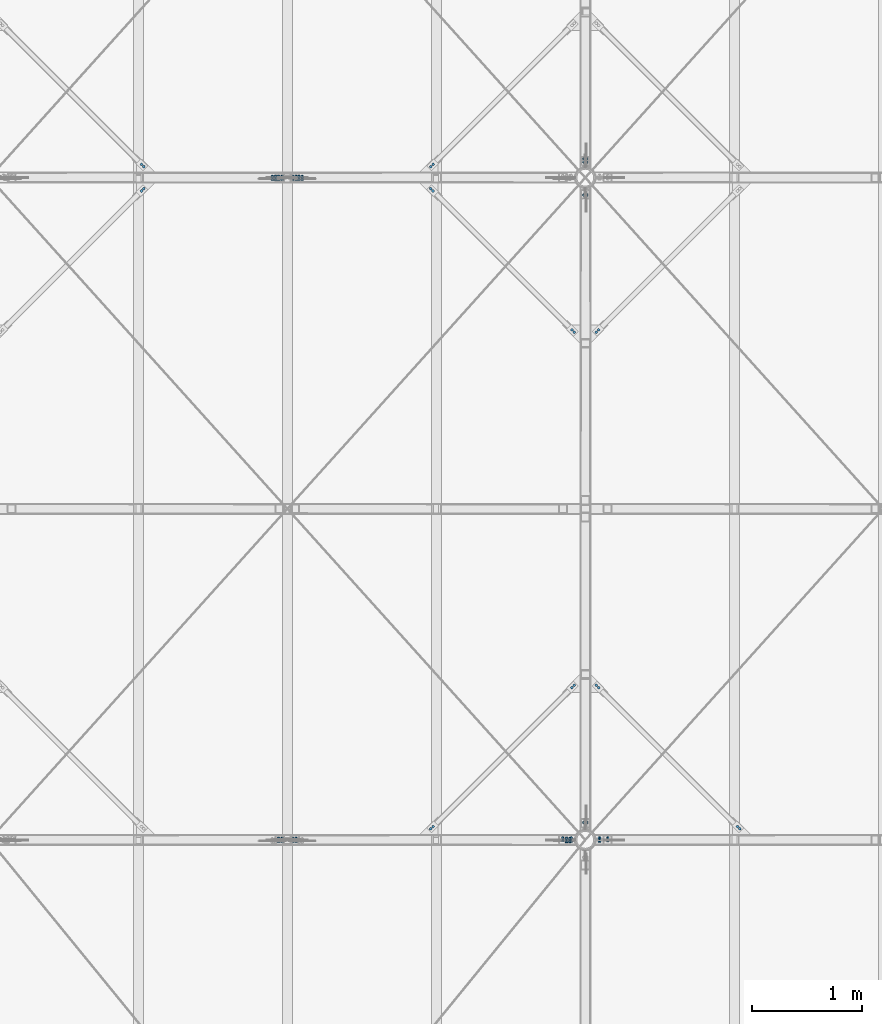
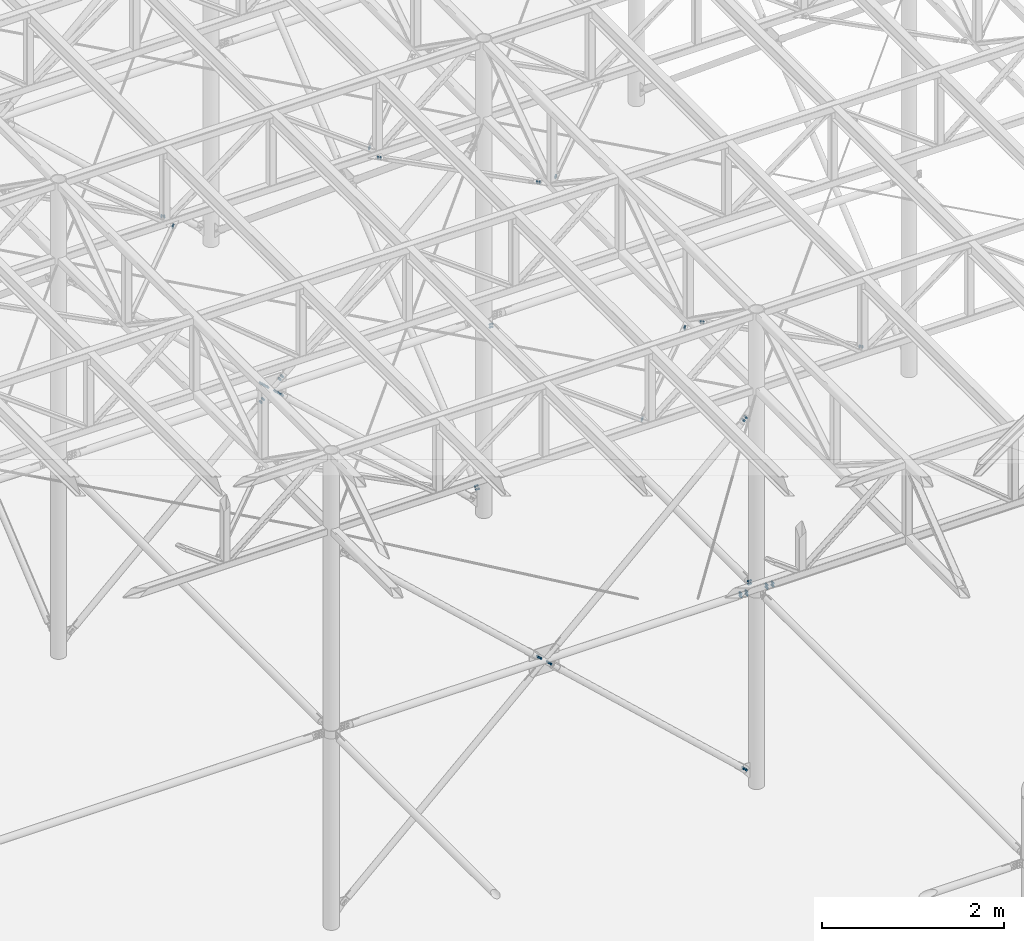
# One storey, part 118 of 132: 29 mechanical fasteners, 22 elements without a shape of their own.
"""IFC2X3 building model written with IfcOpenShell, lengths in millimetres."""

from ifc_helpers import new_model, si_unit, frame, origin_with_axes, origin_2d_with_axis, place, context, subcontext, project, spatial, polyline, circle, outline, extrude, source, transform, mapped, material, type_object, element, aggregate, save


model = new_model("IFC2X3")

# Units and contexts
model_context = context("Model", 3, precision=1e-05, world=origin_with_axes())
body_context = subcontext(model_context, "Body", "Model", "MODEL_VIEW")
ifc_project = project(units=[si_unit("LENGTHUNIT", "METRE", prefix="MILLI"), si_unit("AREAUNIT", "SQUARE_METRE"), si_unit("VOLUMEUNIT", "CUBIC_METRE"), si_unit("MASSUNIT", "GRAM", prefix="KILO"), si_unit("TIMEUNIT", "SECOND"), si_unit("PLANEANGLEUNIT", "RADIAN"), si_unit("SOLIDANGLEUNIT", "STERADIAN"), si_unit("THERMODYNAMICTEMPERATUREUNIT", "DEGREE_CELSIUS"), si_unit("LUMINOUSINTENSITYUNIT", "LUMEN")], contexts=[model_context])

# Site, building, storey
site_placement = place(None, origin_with_axes())
site = spatial("IfcSite", under=ifc_project, at=site_placement, Name="Budowa", CompositionType="ELEMENT")
building_placement = place(site_placement, origin_with_axes())
building = spatial("IfcBuilding", under=site, at=building_placement, Name="Undefined", CompositionType="ELEMENT")
storey_placement = place(building_placement, origin_with_axes())
storey = spatial("IfcBuildingStorey", under=building, at=storey_placement, Name="Undefined", CompositionType="ELEMENT", Elevation=0.0)

# Assembly, mechanical fastener
assembly_1_placement = place(storey_placement, origin_with_axes())
assembly_1 = element("IfcElementAssembly", 1, at=assembly_1_placement, inside=storey, Name="Steel Assembly", AssemblyPlace="NOTDEFINED", PredefinedType="RIGID_FRAME")
ifc_material = material(Name="Undefined")
discrete_accessory_type = type_object("IfcDiscreteAccessoryType", Name="Bolt assembly")
shared_shape_1 = source(origin_with_axes(), body_context, "Body", "SweptSolid", [
    extrude(circle(Radius=9.5, at=origin_2d_with_axis()), frame((0.0, -4.09999999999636, 0.0), z_axis=(0.0, 1.0, 0.0), x_axis=(1.0, 0.0, 0.0)), (0.0, 0.0, 1.0), 8.1),
    extrude(circle(Radius=9.5, at=origin_2d_with_axis()), frame((0.0, -11.9, 0.0), z_axis=(0.0, 1.0, 0.0), x_axis=(1.0, 0.0, 0.0)), (0.0, 0.0, 1.0), 8.0),
    extrude(outline(polyline([(13.85640646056, 0.0), (6.92820323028, 12.0000000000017), (-6.92820323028, 12.0000000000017), (-13.85640646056, 0.0), (-6.92820323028, -12.0000000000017), (6.92820323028, -12.0000000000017), (13.85640646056, 0.0)])), frame((0.0, -25.0, 0.0), z_axis=(0.0, 1.0, 0.0), x_axis=(1.0, 0.0, 0.0)), (0.0, 0.0, 1.0), 10.0),
    extrude(circle(Radius=8.0, at=origin_2d_with_axis()), frame((0.0, -15.0, 0.0), z_axis=(0.0, 1.0, 0.0), x_axis=(1.0, 0.0, 0.0)), (0.0, 0.0, 1.0), 40.0),
    extrude(circle(Radius=15.0, at=origin_2d_with_axis()), frame((0.0, -15.0, 0.0), z_axis=(0.0, 1.0, 0.0), x_axis=(1.0, 0.0, 0.0)), (0.0, 0.0, 1.0), 3.0),
    extrude(circle(Radius=15.0, at=origin_2d_with_axis()), frame((0.0, 4.0, 0.0), z_axis=(0.0, 1.0, 0.0), x_axis=(1.0, 0.0, 0.0)), (0.0, 0.0, 1.0), 3.0),
    extrude(outline(polyline([(13.85640646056, 0.0), (6.92820323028, 12.0000000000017), (-6.92820323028, 12.0000000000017), (-13.85640646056, 0.0), (-6.92820323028, -12.0000000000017), (6.92820323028, -12.0000000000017), (13.85640646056, 0.0)])), frame((0.0, 7.0, 0.0), z_axis=(0.0, 1.0, 0.0), x_axis=(1.0, 0.0, 0.0)), (0.0, 0.0, 1.0), 13.0),
])
mechanical_fastener_1_placement = place(assembly_1_placement, frame((12018.9139021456, 11997.999997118, 10018.0008231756), z_axis=(0.67855182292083, 0.0, -0.734552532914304), x_axis=(-0.734552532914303, 0.0, -0.67855182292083)))
mechanical_fastener_1 = element("IfcMechanicalFastener", 2, at=mechanical_fastener_1_placement, type_object=discrete_accessory_type, material=ifc_material, Name="Bolt assembly", NominalDiameter=16.0, NominalLength=40.0, context=body_context, shape_type="MappedRepresentation", body=[
    mapped(shared_shape_1, transform((0.0, 0.0, 0.0))),
    mapped(shared_shape_1, transform((40.0000000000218, 0.0, -1.81898940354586e-12))),
])
aggregate(assembly_1, [mechanical_fastener_1])

assembly_2_placement = place(storey_placement, origin_with_axes())
assembly_2 = element("IfcElementAssembly", 3, at=assembly_2_placement, inside=storey, Name="Steel Assembly", AssemblyPlace="NOTDEFINED", PredefinedType="RIGID_FRAME")
mechanical_fastener_2_placement = place(assembly_2_placement, frame((12231.0887636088, 11997.999997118, 10018.0008271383), z_axis=(0.678551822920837, 0.0, 0.734552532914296), x_axis=(0.734552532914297, 0.0, -0.678551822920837)))
mechanical_fastener_2 = element("IfcMechanicalFastener", 4, at=mechanical_fastener_2_placement, type_object=discrete_accessory_type, material=ifc_material, Name="Bolt assembly", NominalDiameter=16.0, NominalLength=40.0, context=body_context, shape_type="MappedRepresentation", body=[
    mapped(shared_shape_1, transform((0.0, 0.0, 0.0))),
    mapped(shared_shape_1, transform((40.0000000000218, 0.0, -1.81898940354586e-12))),
])
aggregate(assembly_2, [mechanical_fastener_2])

assembly_3_placement = place(storey_placement, origin_with_axes())
assembly_3 = element("IfcElementAssembly", 5, at=assembly_3_placement, inside=storey, Name="Steel Assembly", AssemblyPlace="NOTDEFINED", PredefinedType="RIGID_FRAME")
mechanical_fastener_3_placement = place(assembly_3_placement, frame((12018.913903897, 11997.9999968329, 10213.9999310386), z_axis=(-0.67855182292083, 0.0, -0.734552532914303), x_axis=(-0.734552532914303, 0.0, 0.67855182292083)))
mechanical_fastener_3 = element("IfcMechanicalFastener", 6, at=mechanical_fastener_3_placement, type_object=discrete_accessory_type, material=ifc_material, Name="Bolt assembly", NominalDiameter=16.0, NominalLength=40.0, context=body_context, shape_type="MappedRepresentation", body=[
    mapped(shared_shape_1, transform((0.0, 0.0, 0.0))),
    mapped(shared_shape_1, transform((40.0000000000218, 0.0, -1.81898940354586e-12))),
])
aggregate(assembly_3, [mechanical_fastener_3])

assembly_4_placement = place(storey_placement, origin_with_axes())
assembly_4 = element("IfcElementAssembly", 7, at=assembly_4_placement, inside=storey, Name="Steel Assembly", AssemblyPlace="NOTDEFINED", PredefinedType="RIGID_FRAME")
mechanical_fastener_4_placement = place(assembly_4_placement, frame((12231.0887653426, 11997.9999968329, 10213.9999302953), z_axis=(-0.678551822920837, 0.0, 0.734552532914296), x_axis=(0.734552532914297, 0.0, 0.678551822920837)))
mechanical_fastener_4 = element("IfcMechanicalFastener", 8, at=mechanical_fastener_4_placement, type_object=discrete_accessory_type, material=ifc_material, Name="Bolt assembly", NominalDiameter=16.0, NominalLength=40.0, context=body_context, shape_type="MappedRepresentation", body=[
    mapped(shared_shape_1, transform((0.0, 0.0, 0.0))),
    mapped(shared_shape_1, transform((40.0000000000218, 0.0, -1.81898940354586e-12))),
])
aggregate(assembly_4, [mechanical_fastener_4])

assembly_5_placement = place(storey_placement, origin_with_axes())
assembly_5 = element("IfcElementAssembly", 9, at=assembly_5_placement, inside=storey, Name="Steel Assembly", AssemblyPlace="NOTDEFINED", PredefinedType="RIGID_FRAME")
shared_shape_2 = source(origin_with_axes(), body_context, "Body", "SweptSolid", [
    extrude(circle(Radius=9.0, at=origin_2d_with_axis()), frame((0.0, 0.0999999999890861, 0.0), z_axis=(0.0, 1.0, 0.0), x_axis=(1.0, 0.0, 0.0)), (0.0, 0.0, 1.0), 8.0),
    extrude(circle(Radius=9.0, at=origin_2d_with_axis()), frame((0.0, 11.9000000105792, 0.0), z_axis=(0.0, 1.0, 0.0), x_axis=(1.0, 0.0, 0.0)), (0.0, 0.0, 1.0), 8.1),
    extrude(outline(polyline([(13.85640646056, 0.0), (6.92820323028, 12.0000000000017), (-6.92820323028, 12.0000000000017), (-13.85640646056, 0.0), (-6.92820323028, -12.0000000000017), (6.92820323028, -12.0000000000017), (13.85640646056, 0.0)])), frame((0.0, -13.0, 0.0), z_axis=(0.0, 1.0, 0.0), x_axis=(1.0, 0.0, 0.0)), (0.0, 0.0, 1.0), 10.0),
    extrude(circle(Radius=8.0, at=origin_2d_with_axis()), frame((0.0, -2.99999999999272, 0.0), z_axis=(0.0, 1.0, 0.0), x_axis=(1.0, 0.0, 0.0)), (0.0, 0.0, 1.0), 45.0),
    extrude(circle(Radius=15.0, at=origin_2d_with_axis()), frame((0.0, -2.99999999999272, 0.0), z_axis=(0.0, 1.0, 0.0), x_axis=(1.0, 0.0, 0.0)), (0.0, 0.0, 1.0), 3.0),
    extrude(circle(Radius=15.0, at=origin_2d_with_axis()), frame((0.0, 20.0000000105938, 0.0), z_axis=(0.0, 1.0, 0.0), x_axis=(1.0, 0.0, 0.0)), (0.0, 0.0, 1.0), 3.0),
    extrude(outline(polyline([(13.85640646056, 0.0), (6.92820323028, 12.0000000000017), (-6.92820323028, 12.0000000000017), (-13.85640646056, 0.0), (-6.92820323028, -12.0000000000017), (6.92820323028, -12.0000000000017), (13.85640646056, 0.0)])), frame((0.0, 23.0000000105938, 0.0), z_axis=(0.0, 1.0, 0.0), x_axis=(1.0, 0.0, 0.0)), (0.0, 0.0, 1.0), 13.0),
])
mechanical_fastener_5_placement = place(assembly_5_placement, frame((14953.1367126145, 5990.00000004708, 10096.0003779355), z_axis=(-1.0, 0.0, 0.0), x_axis=(0.0, 0.0, 1.0)))
mechanical_fastener_5 = element("IfcMechanicalFastener", 10, at=mechanical_fastener_5_placement, type_object=discrete_accessory_type, material=ifc_material, Name="Bolt assembly", NominalDiameter=16.0, NominalLength=45.0, context=body_context, shape_type="MappedRepresentation", body=[
    mapped(shared_shape_2, transform((0.0, 0.0, 0.0))),
    mapped(shared_shape_2, transform((40.0000000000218, 0.0, -1.81898940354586e-12))),
])

assembly_6_placement = place(storey_placement, origin_with_axes())
assembly_6 = element("IfcElementAssembly", 11, at=assembly_6_placement, inside=storey, Name="Steel Assembly", AssemblyPlace="NOTDEFINED", PredefinedType="RIGID_FRAME")
shared_shape_3 = source(origin_with_axes(), body_context, "Body", "SweptSolid", [
    extrude(circle(Radius=9.0, at=origin_2d_with_axis()), frame((0.0, -4.09999999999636, 0.0), z_axis=(0.0, 1.0, 0.0), x_axis=(1.0, 0.0, 0.0)), (0.0, 0.0, 1.0), 8.1),
    extrude(circle(Radius=9.0, at=origin_2d_with_axis()), frame((0.0, -11.9, 0.0), z_axis=(0.0, 1.0, 0.0), x_axis=(1.0, 0.0, 0.0)), (0.0, 0.0, 1.0), 8.0),
    extrude(outline(polyline([(13.85640646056, 0.0), (6.92820323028, 12.0000000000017), (-6.92820323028, 12.0000000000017), (-13.85640646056, 0.0), (-6.92820323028, -12.0000000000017), (6.92820323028, -12.0000000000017), (13.85640646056, 0.0)])), frame((0.0, -25.0, 0.0), z_axis=(0.0, 1.0, 0.0), x_axis=(1.0, 0.0, 0.0)), (0.0, 0.0, 1.0), 10.0),
    extrude(circle(Radius=8.0, at=origin_2d_with_axis()), frame((0.0, -15.0, 0.0), z_axis=(0.0, 1.0, 0.0), x_axis=(1.0, 0.0, 0.0)), (0.0, 0.0, 1.0), 40.0),
    extrude(circle(Radius=15.0, at=origin_2d_with_axis()), frame((0.0, -15.0, 0.0), z_axis=(0.0, 1.0, 0.0), x_axis=(1.0, 0.0, 0.0)), (0.0, 0.0, 1.0), 3.0),
    extrude(circle(Radius=15.0, at=origin_2d_with_axis()), frame((0.0, 4.0, 0.0), z_axis=(0.0, 1.0, 0.0), x_axis=(1.0, 0.0, 0.0)), (0.0, 0.0, 1.0), 3.0),
    extrude(outline(polyline([(13.85640646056, 0.0), (6.92820323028, 12.0000000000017), (-6.92820323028, 12.0000000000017), (-13.85640646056, 0.0), (-6.92820323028, -12.0000000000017), (6.92820323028, -12.0000000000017), (13.85640646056, 0.0)])), frame((0.0, 7.0, 0.0), z_axis=(0.0, 1.0, 0.0), x_axis=(1.0, 0.0, 0.0)), (0.0, 0.0, 1.0), 13.0),
])
mechanical_fastener_6_placement = place(assembly_6_placement, frame((14824.9999999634, 12140.1779391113, 7739.23081470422), z_axis=(0.0, -0.639165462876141, 0.769069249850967), x_axis=(0.0, 0.769069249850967, 0.639165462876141)))
mechanical_fastener_6 = element("IfcMechanicalFastener", 12, at=mechanical_fastener_6_placement, type_object=discrete_accessory_type, material=ifc_material, Name="Bolt assembly", NominalDiameter=16.0, NominalLength=40.0, context=body_context, shape_type="MappedRepresentation", body=[
    mapped(shared_shape_3, transform((0.0, 0.0, 0.0))),
    mapped(shared_shape_3, transform((40.0000000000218, 0.0, -1.81898940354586e-12))),
])
aggregate(assembly_6, [mechanical_fastener_6])

# Assembly, mechanical fasteners
assembly_7_placement = place(storey_placement, origin_with_axes())
assembly_7 = element("IfcElementAssembly", 13, at=assembly_7_placement, inside=storey, Name="Steel Assembly", AssemblyPlace="NOTDEFINED", PredefinedType="RIGID_FRAME")
mechanical_fastener_7_placement = place(assembly_7_placement, frame((14824.9999972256, 11842.0920947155, 10116.0003779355), z_axis=(0.0, 0.0, -1.0), x_axis=(0.0, -1.0, 0.0)))
mechanical_fastener_7 = element("IfcMechanicalFastener", 14, at=mechanical_fastener_7_placement, type_object=discrete_accessory_type, material=ifc_material, Name="Bolt assembly", NominalDiameter=16.0, NominalLength=40.0, context=body_context, shape_type="MappedRepresentation", body=[
    mapped(shared_shape_3, transform((0.0, 0.0, -20.0))),
    mapped(shared_shape_3, transform((0.0, 0.0, 20.0))),
])
mechanical_fastener_8_placement = place(assembly_7_placement, frame((14824.9999969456, 6157.90790542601, 10116.0003779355), z_axis=(0.0, 0.0, 1.0), x_axis=(0.0, 1.0, 0.0)))
mechanical_fastener_8 = element("IfcMechanicalFastener", 15, at=mechanical_fastener_8_placement, type_object=discrete_accessory_type, material=ifc_material, Name="Bolt assembly", NominalDiameter=16.0, NominalLength=40.0, context=body_context, shape_type="MappedRepresentation", body=[
    mapped(shared_shape_3, transform((0.0, 0.0, -20.0))),
    mapped(shared_shape_3, transform((0.0, 0.0, 20.0))),
])
aggregate(assembly_7, [mechanical_fastener_7, mechanical_fastener_8])

# Assembly, mechanical fastener
assembly_8_placement = place(storey_placement, origin_with_axes())
assembly_8 = element("IfcElementAssembly", 16, at=assembly_8_placement, inside=storey, Name="Steel Assembly", AssemblyPlace="NOTDEFINED", PredefinedType="RIGID_FRAME")
mechanical_fastener_9_placement = place(assembly_8_placement, frame((12174.3756759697, 11999.9999977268, 10070.3902305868), z_axis=(0.678551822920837, 0.0, 0.734552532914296), x_axis=(0.734552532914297, 0.0, -0.678551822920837)))
mechanical_fastener_9 = element("IfcMechanicalFastener", 17, at=mechanical_fastener_9_placement, type_object=discrete_accessory_type, material=ifc_material, Name="Bolt assembly", NominalDiameter=16.0, NominalLength=40.0, context=body_context, shape_type="MappedRepresentation", body=[
    mapped(shared_shape_3, transform((0.0, 0.0, 0.0))),
    mapped(shared_shape_3, transform((40.0000000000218, 0.0, -1.81898940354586e-12))),
])
aggregate(assembly_8, [mechanical_fastener_9])

assembly_9_placement = place(storey_placement, origin_with_axes())
assembly_9 = element("IfcElementAssembly", 18, at=assembly_9_placement, inside=storey, Name="Steel Assembly", AssemblyPlace="NOTDEFINED", PredefinedType="RIGID_FRAME")
mechanical_fastener_10_placement = place(assembly_9_placement, frame((12075.6269936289, 11999.9999975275, 10161.6105256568), z_axis=(-0.67855182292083, 0.0, -0.734552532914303), x_axis=(-0.734552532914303, 0.0, 0.67855182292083)))
mechanical_fastener_10 = element("IfcMechanicalFastener", 19, at=mechanical_fastener_10_placement, type_object=discrete_accessory_type, material=ifc_material, Name="Bolt assembly", NominalDiameter=16.0, NominalLength=40.0, context=body_context, shape_type="MappedRepresentation", body=[
    mapped(shared_shape_3, transform((0.0, 0.0, 0.0))),
    mapped(shared_shape_3, transform((40.0000000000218, 0.0, -1.81898940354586e-12))),
])
aggregate(assembly_9, [mechanical_fastener_10])

assembly_10_placement = place(storey_placement, origin_with_axes())
assembly_10 = element("IfcElementAssembly", 20, at=assembly_10_placement, inside=storey, Name="Steel Assembly", AssemblyPlace="NOTDEFINED", PredefinedType="RIGID_FRAME")
mechanical_fastener_11_placement = place(assembly_10_placement, frame((14684.3261497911, 5999.99999734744, 7751.79299875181), z_axis=(-0.67855182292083, 0.0, -0.734552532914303), x_axis=(-0.734552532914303, 0.0, 0.67855182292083)))
mechanical_fastener_11 = element("IfcMechanicalFastener", 21, at=mechanical_fastener_11_placement, type_object=discrete_accessory_type, material=ifc_material, Name="Bolt assembly", NominalDiameter=16.0, NominalLength=40.0, context=body_context, shape_type="MappedRepresentation", body=[
    mapped(shared_shape_3, transform((0.0, 0.0, 0.0))),
    mapped(shared_shape_3, transform((40.0000000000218, 0.0, -1.81898940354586e-12))),
])

assembly_11_placement = place(storey_placement, origin_with_axes())
assembly_11 = element("IfcElementAssembly", 22, at=assembly_11_placement, inside=storey, Name="Steel Assembly", AssemblyPlace="NOTDEFINED", PredefinedType="RIGID_FRAME")
mechanical_fastener_12_placement = place(assembly_11_placement, frame((14684.3261492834, 5999.99999762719, 12480.2077566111), z_axis=(0.67855182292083, 0.0, -0.734552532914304), x_axis=(-0.734552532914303, 0.0, -0.67855182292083)))
mechanical_fastener_12 = element("IfcMechanicalFastener", 23, at=mechanical_fastener_12_placement, type_object=discrete_accessory_type, material=ifc_material, Name="Bolt assembly", NominalDiameter=16.0, NominalLength=40.0, context=body_context, shape_type="MappedRepresentation", body=[
    mapped(shared_shape_3, transform((0.0, 0.0, 0.0))),
    mapped(shared_shape_3, transform((40.0000000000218, 0.0, -1.81898940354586e-12))),
])
aggregate(assembly_11, [mechanical_fastener_12])

# Mechanical fastener
mechanical_fastener_13_placement = place(assembly_10_placement, frame((12174.3756759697, 5999.99999772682, 10070.3902305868), z_axis=(0.678551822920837, 0.0, 0.734552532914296), x_axis=(0.734552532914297, 0.0, -0.678551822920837)))
mechanical_fastener_13 = element("IfcMechanicalFastener", 24, at=mechanical_fastener_13_placement, type_object=discrete_accessory_type, material=ifc_material, Name="Bolt assembly", NominalDiameter=16.0, NominalLength=40.0, context=body_context, shape_type="MappedRepresentation", body=[
    mapped(shared_shape_3, transform((0.0, 0.0, 0.0))),
    mapped(shared_shape_3, transform((40.0000000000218, 0.0, -1.81898940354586e-12))),
])

aggregate(assembly_10, [mechanical_fastener_11, mechanical_fastener_13])

# Assembly, mechanical fastener
assembly_12_placement = place(storey_placement, origin_with_axes())
assembly_12 = element("IfcElementAssembly", 25, at=assembly_12_placement, inside=storey, Name="Steel Assembly", AssemblyPlace="NOTDEFINED", PredefinedType="RIGID_FRAME")
mechanical_fastener_14_placement = place(assembly_12_placement, frame((12075.6269936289, 5999.99999752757, 10161.6105256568), z_axis=(-0.67855182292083, 0.0, -0.734552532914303), x_axis=(-0.734552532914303, 0.0, 0.67855182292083)))
mechanical_fastener_14 = element("IfcMechanicalFastener", 26, at=mechanical_fastener_14_placement, type_object=discrete_accessory_type, material=ifc_material, Name="Bolt assembly", NominalDiameter=16.0, NominalLength=40.0, context=body_context, shape_type="MappedRepresentation", body=[
    mapped(shared_shape_3, transform((0.0, 0.0, 0.0))),
    mapped(shared_shape_3, transform((40.0000000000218, 0.0, -1.81898940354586e-12))),
])
aggregate(assembly_12, [mechanical_fastener_14])

# Mechanical fastener
shared_shape_4 = source(origin_with_axes(), body_context, "Body", "SweptSolid", [
    extrude(circle(Radius=9.0, at=origin_2d_with_axis()), frame((0.0, 0.0999999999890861, 0.0), z_axis=(0.0, 1.0, 0.0), x_axis=(1.0, 0.0, 0.0)), (0.0, 0.0, 1.0), 8.0),
    extrude(circle(Radius=9.0, at=origin_2d_with_axis()), frame((0.0, 7.9000007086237, 0.0), z_axis=(0.0, 1.0, 0.0), x_axis=(1.0, 0.0, 0.0)), (0.0, 0.0, 1.0), 8.1),
    extrude(outline(polyline([(13.85640646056, 0.0), (6.92820323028, 12.0000000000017), (-6.92820323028, 12.0000000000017), (-13.85640646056, 0.0), (-6.92820323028, -12.0000000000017), (6.92820323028, -12.0000000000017), (13.85640646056, 0.0)])), frame((0.0, -13.0, 0.0), z_axis=(0.0, 1.0, 0.0), x_axis=(1.0, 0.0, 0.0)), (0.0, 0.0, 1.0), 10.0),
    extrude(circle(Radius=8.0, at=origin_2d_with_axis()), frame((0.0, -2.99999999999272, 0.0), z_axis=(0.0, 1.0, 0.0), x_axis=(1.0, 0.0, 0.0)), (0.0, 0.0, 1.0), 40.0),
    extrude(circle(Radius=15.0, at=origin_2d_with_axis()), frame((0.0, -2.99999999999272, 0.0), z_axis=(0.0, 1.0, 0.0), x_axis=(1.0, 0.0, 0.0)), (0.0, 0.0, 1.0), 3.0),
    extrude(circle(Radius=15.0, at=origin_2d_with_axis()), frame((0.0, 16.0000007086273, 0.0), z_axis=(0.0, 1.0, 0.0), x_axis=(1.0, 0.0, 0.0)), (0.0, 0.0, 1.0), 3.0),
    extrude(outline(polyline([(13.85640646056, 0.0), (6.92820323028, 12.0000000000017), (-6.92820323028, 12.0000000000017), (-13.85640646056, 0.0), (-6.92820323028, -12.0000000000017), (6.92820323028, -12.0000000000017), (13.85640646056, 0.0)])), frame((0.0, 19.0000007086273, 0.0), z_axis=(0.0, 1.0, 0.0), x_axis=(1.0, 0.0, 0.0)), (0.0, 0.0, 1.0), 13.0),
])
mechanical_fastener_15_placement = place(assembly_5_placement, frame((15028.1366941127, 5993.99999945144, 10096.0003779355), z_axis=(-1.0, 0.0, 0.0), x_axis=(0.0, 0.0, 1.0)))
mechanical_fastener_15 = element("IfcMechanicalFastener", 27, at=mechanical_fastener_15_placement, type_object=discrete_accessory_type, material=ifc_material, Name="Bolt assembly", NominalDiameter=16.0, NominalLength=40.0, context=body_context, shape_type="MappedRepresentation", body=[
    mapped(shared_shape_4, transform((0.0, 0.0, 0.0))),
    mapped(shared_shape_4, transform((40.0000000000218, 0.0, -1.81898940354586e-12))),
])

mechanical_fastener_16_placement = place(assembly_5_placement, frame((14621.863305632, 5993.99999945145, 10096.0003779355), z_axis=(-1.0, 0.0, 0.0), x_axis=(0.0, 0.0, 1.0)))
mechanical_fastener_16 = element("IfcMechanicalFastener", 28, at=mechanical_fastener_16_placement, type_object=discrete_accessory_type, material=ifc_material, Name="Bolt assembly", NominalDiameter=16.0, NominalLength=40.0, context=body_context, shape_type="MappedRepresentation", body=[
    mapped(shared_shape_4, transform((0.0, 0.0, 0.0))),
    mapped(shared_shape_4, transform((40.0000000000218, 0.0, -1.81898940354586e-12))),
])

aggregate(assembly_5, [mechanical_fastener_15, mechanical_fastener_16, mechanical_fastener_5])

# Assembly, mechanical fastener
assembly_13_placement = place(storey_placement, origin_with_axes())
assembly_13 = element("IfcElementAssembly", 29, at=assembly_13_placement, inside=storey, Name="Steel Assembly", AssemblyPlace="NOTDEFINED", PredefinedType="RIGID_FRAME")
shared_shape_5 = source(origin_with_axes(), body_context, "Body", "SweptSolid", [
    extrude(circle(Radius=9.0, at=origin_2d_with_axis()), frame((0.0, 11.9000000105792, 0.0), z_axis=(0.0, 1.0, 0.0), x_axis=(1.0, 0.0, 0.0)), (0.0, 0.0, 1.0), 8.1),
    extrude(circle(Radius=9.0, at=origin_2d_with_axis()), frame((0.0, 0.0999999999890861, 0.0), z_axis=(0.0, 1.0, 0.0), x_axis=(1.0, 0.0, 0.0)), (0.0, 0.0, 1.0), 8.0),
    extrude(outline(polyline([(13.85640646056, 0.0), (6.92820323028, 12.0000000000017), (-6.92820323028, 12.0000000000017), (-13.85640646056, 0.0), (-6.92820323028, -12.0000000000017), (6.92820323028, -12.0000000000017), (13.85640646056, 0.0)])), frame((0.0, -13.0, 0.0), z_axis=(0.0, 1.0, 0.0), x_axis=(1.0, 0.0, 0.0)), (0.0, 0.0, 1.0), 10.0),
    extrude(circle(Radius=8.0, at=origin_2d_with_axis()), frame((0.0, -2.99999999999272, 0.0), z_axis=(0.0, 1.0, 0.0), x_axis=(1.0, 0.0, 0.0)), (0.0, 0.0, 1.0), 45.0),
    extrude(circle(Radius=15.0, at=origin_2d_with_axis()), frame((0.0, -2.99999999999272, 0.0), z_axis=(0.0, 1.0, 0.0), x_axis=(1.0, 0.0, 0.0)), (0.0, 0.0, 1.0), 3.0),
    extrude(circle(Radius=15.0, at=origin_2d_with_axis()), frame((0.0, 20.0000000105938, 0.0), z_axis=(0.0, 1.0, 0.0), x_axis=(1.0, 0.0, 0.0)), (0.0, 0.0, 1.0), 3.0),
    extrude(outline(polyline([(13.85640646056, 0.0), (6.92820323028, 12.0000000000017), (-6.92820323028, 12.0000000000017), (-13.85640646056, 0.0), (-6.92820323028, -12.0000000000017), (6.92820323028, -12.0000000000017), (13.85640646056, 0.0)])), frame((0.0, 23.0000000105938, 0.0), z_axis=(0.0, 1.0, 0.0), x_axis=(1.0, 0.0, 0.0)), (0.0, 0.0, 1.0), 13.0),
])
mechanical_fastener_17_placement = place(assembly_13_placement, frame((14696.863305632, 5989.99999994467, 10096.0003779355), z_axis=(-1.0, 0.0, 0.0), x_axis=(0.0, 0.0, 1.0)))
mechanical_fastener_17 = element("IfcMechanicalFastener", 30, at=mechanical_fastener_17_placement, type_object=discrete_accessory_type, material=ifc_material, Name="Bolt assembly", NominalDiameter=16.0, NominalLength=45.0, context=body_context, shape_type="MappedRepresentation", body=[
    mapped(shared_shape_5, transform((0.0, 0.0, 0.0))),
    mapped(shared_shape_5, transform((40.0000000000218, 0.0, -1.81898940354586e-12))),
])
aggregate(assembly_13, [mechanical_fastener_17])

assembly_14_placement = place(storey_placement, origin_with_axes())
assembly_14 = element("IfcElementAssembly", 31, at=assembly_14_placement, inside=storey, Name="Steel Assembly", AssemblyPlace="NOTDEFINED", PredefinedType="RIGID_FRAME")
shared_shape_6 = source(origin_with_axes(), body_context, "Body", "SweptSolid", [
    extrude(circle(Radius=9.5, at=origin_2d_with_axis()), frame((0.0, -2.10099750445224, 0.0), z_axis=(0.0, 1.0, 0.0), x_axis=(1.0, 0.0, 0.0)), (0.0, 0.0, 1.0), 8.1),
    extrude(circle(Radius=9.5, at=origin_2d_with_axis()), frame((0.0, -11.9, 0.0), z_axis=(0.0, 1.0, 0.0), x_axis=(1.0, 0.0, 0.0)), (0.0, 0.0, 1.0), 8.0),
    extrude(outline(polyline([(13.85640646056, 0.0), (6.92820323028, 12.0000000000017), (-6.92820323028, 12.0000000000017), (-13.85640646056, 0.0), (-6.92820323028, -12.0000000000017), (6.92820323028, -12.0000000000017), (13.85640646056, 0.0)])), frame((0.0, -25.0, 0.0), z_axis=(0.0, 1.0, 0.0), x_axis=(1.0, 0.0, 0.0)), (0.0, 0.0, 1.0), 10.0),
    extrude(circle(Radius=8.0, at=origin_2d_with_axis()), frame((0.0, -15.0, 0.0), z_axis=(0.0, 1.0, 0.0), x_axis=(1.0, 0.0, 0.0)), (0.0, 0.0, 1.0), 45.0),
    extrude(circle(Radius=15.0, at=origin_2d_with_axis()), frame((0.0, -15.0, 0.0), z_axis=(0.0, 1.0, 0.0), x_axis=(1.0, 0.0, 0.0)), (0.0, 0.0, 1.0), 3.0),
    extrude(circle(Radius=15.0, at=origin_2d_with_axis()), frame((0.0, 5.99900249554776, 0.0), z_axis=(0.0, 1.0, 0.0), x_axis=(1.0, 0.0, 0.0)), (0.0, 0.0, 1.0), 3.0),
    extrude(outline(polyline([(13.85640646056, 0.0), (6.92820323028, 12.0000000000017), (-6.92820323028, 12.0000000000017), (-13.85640646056, 0.0), (-6.92820323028, -12.0000000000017), (6.92820323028, -12.0000000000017), (13.85640646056, 0.0)])), frame((0.0, 8.99900249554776, 0.0), z_axis=(0.0, 1.0, 0.0), x_axis=(1.0, 0.0, 0.0)), (0.0, 0.0, 1.0), 13.0),
])
mechanical_fastener_18_placement = place(assembly_14_placement, frame((14684.3261492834, 5997.99999762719, 12480.2077566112), z_axis=(0.67855182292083, 0.0, -0.734552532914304), x_axis=(-0.734552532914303, 0.0, -0.67855182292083)))
mechanical_fastener_18 = element("IfcMechanicalFastener", 32, at=mechanical_fastener_18_placement, type_object=discrete_accessory_type, material=ifc_material, Name="Bolt assembly", NominalDiameter=16.0, NominalLength=45.0, context=body_context, shape_type="MappedRepresentation", body=[
    mapped(shared_shape_6, transform((0.0, 0.0, 0.0))),
    mapped(shared_shape_6, transform((40.0000000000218, 0.0, -1.81898940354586e-12))),
])
aggregate(assembly_14, [mechanical_fastener_18])

assembly_15_placement = place(storey_placement, origin_with_axes())
assembly_15 = element("IfcElementAssembly", 33, at=assembly_15_placement, inside=storey, Name="Steel Assembly", AssemblyPlace="NOTDEFINED", PredefinedType="RIGID_FRAME")
mechanical_fastener_19_placement = place(assembly_15_placement, frame((14684.3261497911, 5997.99999734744, 7751.7929987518), z_axis=(-0.67855182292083, 0.0, -0.734552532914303), x_axis=(-0.734552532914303, 0.0, 0.67855182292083)))
mechanical_fastener_19 = element("IfcMechanicalFastener", 34, at=mechanical_fastener_19_placement, type_object=discrete_accessory_type, material=ifc_material, Name="Bolt assembly", NominalDiameter=16.0, NominalLength=45.0, context=body_context, shape_type="MappedRepresentation", body=[
    mapped(shared_shape_6, transform((0.0, 0.0, 0.0))),
    mapped(shared_shape_6, transform((40.0000000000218, 0.0, -1.81898940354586e-12))),
])
aggregate(assembly_15, [mechanical_fastener_19])

# Assembly, mechanical fasteners
assembly_16_placement = place(storey_placement, origin_with_axes())
assembly_16 = element("IfcElementAssembly", 35, at=assembly_16_placement, inside=storey, Name="Steel Assembly", AssemblyPlace="NOTDEFINED", PredefinedType="RIGID_FRAME")
shared_shape_7 = source(origin_with_axes(), body_context, "Body", "SweptSolid", [
    extrude(circle(Radius=6.5, at=origin_2d_with_axis()), frame((0.0, -3.1, 0.0), z_axis=(0.0, 1.0, 0.0), x_axis=(1.0, 0.0, 0.0)), (0.0, 0.0, 1.0), 6.1),
    extrude(circle(Radius=6.5, at=origin_2d_with_axis()), frame((0.0, -8.9, 0.0), z_axis=(0.0, 1.0, 0.0), x_axis=(1.0, 0.0, 0.0)), (0.0, 0.0, 1.0), 6.0),
    extrude(outline(polyline([(10.39230484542, 0.0), (5.19615242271, 9.00000000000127), (-5.19615242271, 9.00000000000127), (-10.39230484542, 0.0), (-5.19615242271, -9.00000000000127), (5.19615242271, -9.00000000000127), (10.39230484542, 0.0)])), frame((0.0, -19.5, 0.0), z_axis=(0.0, 1.0, 0.0), x_axis=(1.0, 0.0, 0.0)), (0.0, 0.0, 1.0), 7.5),
    extrude(circle(Radius=6.0, at=origin_2d_with_axis()), frame((0.0, -12.0, 0.0), z_axis=(0.0, 1.0, 0.0), x_axis=(1.0, 0.0, 0.0)), (0.0, 0.0, 1.0), 35.0),
    extrude(circle(Radius=12.0, at=origin_2d_with_axis()), frame((0.0, -12.0, 0.0), z_axis=(0.0, 1.0, 0.0), x_axis=(1.0, 0.0, 0.0)), (0.0, 0.0, 1.0), 3.0),
    extrude(circle(Radius=12.0, at=origin_2d_with_axis()), frame((0.0, 3.0, 0.0), z_axis=(0.0, 1.0, 0.0), x_axis=(1.0, 0.0, 0.0)), (0.0, 0.0, 1.0), 3.0),
    extrude(outline(polyline([(10.96965511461, 0.0), (5.484827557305, 9.50000000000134), (-5.484827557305, 9.50000000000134), (-10.96965511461, 0.0), (-5.484827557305, -9.50000000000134), (5.484827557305, -9.50000000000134), (10.96965511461, 0.0)])), frame((0.0, 6.0, 0.0), z_axis=(0.0, 1.0, 0.0), x_axis=(1.0, 0.0, 0.0)), (0.0, 0.0, 1.0), 10.0),
])
mechanical_fastener_20_placement = place(assembly_16_placement, frame((16225.444659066, 6099.3553410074, 12824.0), z_axis=(-0.70710678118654, -0.707106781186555, 0.0), x_axis=(-0.707106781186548, 0.707106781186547, 0.0)))
mechanical_fastener_20 = element("IfcMechanicalFastener", 36, at=mechanical_fastener_20_placement, type_object=discrete_accessory_type, material=ifc_material, Name="Bolt assembly", NominalDiameter=12.0, NominalLength=35.0, context=body_context, shape_type="MappedRepresentation", body=[
    mapped(shared_shape_7, transform((0.0, 0.0, 0.0))),
    mapped(shared_shape_7, transform((29.9999999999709, 0.0, -1.16415321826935e-10))),
])
mechanical_fastener_21_placement = place(assembly_16_placement, frame((14924.3553409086, 7400.44465916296, 12824.0), z_axis=(0.707106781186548, 0.707106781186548, 0.0), x_axis=(0.707106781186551, -0.707106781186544, 0.0)))
mechanical_fastener_21 = element("IfcMechanicalFastener", 37, at=mechanical_fastener_21_placement, type_object=discrete_accessory_type, material=ifc_material, Name="Bolt assembly", NominalDiameter=12.0, NominalLength=35.0, context=body_context, shape_type="MappedRepresentation", body=[
    mapped(shared_shape_7, transform((0.0, 0.0, 0.0))),
    mapped(shared_shape_7, transform((29.9999999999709, 0.0, -1.16415321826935e-10))),
])
aggregate(assembly_16, [mechanical_fastener_20, mechanical_fastener_21])

assembly_17_placement = place(storey_placement, origin_with_axes())
assembly_17 = element("IfcElementAssembly", 38, at=assembly_17_placement, inside=storey, Name="Steel Assembly", AssemblyPlace="NOTDEFINED", PredefinedType="RIGID_FRAME")
mechanical_fastener_22_placement = place(assembly_17_placement, frame((13424.5553408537, 6099.35534098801, 12824.0), z_axis=(-0.707106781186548, 0.707106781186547, 0.0), x_axis=(0.707106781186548, 0.707106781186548, 0.0)))
mechanical_fastener_22 = element("IfcMechanicalFastener", 39, at=mechanical_fastener_22_placement, type_object=discrete_accessory_type, material=ifc_material, Name="Bolt assembly", NominalDiameter=12.0, NominalLength=35.0, context=body_context, shape_type="MappedRepresentation", body=[
    mapped(shared_shape_7, transform((0.0, 0.0, 0.0))),
    mapped(shared_shape_7, transform((29.9999999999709, 0.0, -1.16415321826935e-10))),
])
mechanical_fastener_23_placement = place(assembly_17_placement, frame((14725.644659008, 7400.4446591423, 12824.0), z_axis=(0.707106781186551, -0.707106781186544, 0.0), x_axis=(-0.70710678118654, -0.707106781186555, 0.0)))
mechanical_fastener_23 = element("IfcMechanicalFastener", 40, at=mechanical_fastener_23_placement, type_object=discrete_accessory_type, material=ifc_material, Name="Bolt assembly", NominalDiameter=12.0, NominalLength=35.0, context=body_context, shape_type="MappedRepresentation", body=[
    mapped(shared_shape_7, transform((0.0, 0.0, 0.0))),
    mapped(shared_shape_7, transform((29.9999999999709, 0.0, -1.16415321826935e-10))),
])
aggregate(assembly_17, [mechanical_fastener_22, mechanical_fastener_23])

# Assembly, mechanical fastener
assembly_18_placement = place(storey_placement, origin_with_axes())
assembly_18 = element("IfcElementAssembly", 41, at=assembly_18_placement, inside=storey, Name="Steel Assembly", AssemblyPlace="NOTDEFINED", PredefinedType="RIGID_FRAME")
mechanical_fastener_24_placement = place(assembly_18_placement, frame((10825.4446590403, 12099.3553410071, 12824.0), z_axis=(-0.70710678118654, -0.707106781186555, 0.0), x_axis=(-0.707106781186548, 0.707106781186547, 0.0)))
mechanical_fastener_24 = element("IfcMechanicalFastener", 42, at=mechanical_fastener_24_placement, type_object=discrete_accessory_type, material=ifc_material, Name="Bolt assembly", NominalDiameter=12.0, NominalLength=35.0, context=body_context, shape_type="MappedRepresentation", body=[
    mapped(shared_shape_7, transform((0.0, 0.0, 0.0))),
    mapped(shared_shape_7, transform((29.9999999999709, 0.0, -1.16415321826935e-10))),
])
aggregate(assembly_18, [mechanical_fastener_24])

assembly_19_placement = place(storey_placement, origin_with_axes())
assembly_19 = element("IfcElementAssembly", 43, at=assembly_19_placement, inside=storey, Name="Steel Assembly", AssemblyPlace="NOTDEFINED", PredefinedType="RIGID_FRAME")
mechanical_fastener_25_placement = place(assembly_19_placement, frame((10825.6446590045, 11900.6446591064, 12824.0), z_axis=(0.707106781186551, -0.707106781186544, 0.0), x_axis=(-0.70710678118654, -0.707106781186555, 0.0)))
mechanical_fastener_25 = element("IfcMechanicalFastener", 44, at=mechanical_fastener_25_placement, type_object=discrete_accessory_type, material=ifc_material, Name="Bolt assembly", NominalDiameter=12.0, NominalLength=35.0, context=body_context, shape_type="MappedRepresentation", body=[
    mapped(shared_shape_7, transform((0.0, 0.0, 0.0))),
    mapped(shared_shape_7, transform((29.9999999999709, 0.0, -1.16415321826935e-10))),
])
aggregate(assembly_19, [mechanical_fastener_25])

assembly_20_placement = place(storey_placement, origin_with_axes())
assembly_20 = element("IfcElementAssembly", 45, at=assembly_20_placement, inside=storey, Name="Steel Assembly", AssemblyPlace="NOTDEFINED", PredefinedType="RIGID_FRAME")
mechanical_fastener_26_placement = place(assembly_20_placement, frame((14924.355340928, 10599.3553410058, 12824.0), z_axis=(-0.707106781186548, 0.707106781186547, 0.0), x_axis=(0.707106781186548, 0.707106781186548, 0.0)))
mechanical_fastener_26 = element("IfcMechanicalFastener", 46, at=mechanical_fastener_26_placement, type_object=discrete_accessory_type, material=ifc_material, Name="Bolt assembly", NominalDiameter=12.0, NominalLength=35.0, context=body_context, shape_type="MappedRepresentation", body=[
    mapped(shared_shape_7, transform((0.0, 0.0, 0.0))),
    mapped(shared_shape_7, transform((29.9999999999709, 0.0, -1.16415321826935e-10))),
])
aggregate(assembly_20, [mechanical_fastener_26])

assembly_21_placement = place(storey_placement, origin_with_axes())
assembly_21 = element("IfcElementAssembly", 47, at=assembly_21_placement, inside=storey, Name="Steel Assembly", AssemblyPlace="NOTDEFINED", PredefinedType="RIGID_FRAME")
mechanical_fastener_27_placement = place(assembly_21_placement, frame((13424.5553408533, 12099.3553409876, 12824.0), z_axis=(-0.707106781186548, 0.707106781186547, 0.0), x_axis=(0.707106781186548, 0.707106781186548, 0.0)))
mechanical_fastener_27 = element("IfcMechanicalFastener", 48, at=mechanical_fastener_27_placement, type_object=discrete_accessory_type, material=ifc_material, Name="Bolt assembly", NominalDiameter=12.0, NominalLength=35.0, context=body_context, shape_type="MappedRepresentation", body=[
    mapped(shared_shape_7, transform((0.0, 0.0, 0.0))),
    mapped(shared_shape_7, transform((29.9999999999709, 0.0, -1.16415321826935e-10))),
])
aggregate(assembly_21, [mechanical_fastener_27])

# Assembly, mechanical fasteners
assembly_22_placement = place(storey_placement, origin_with_axes())
assembly_22 = element("IfcElementAssembly", 49, at=assembly_22_placement, inside=storey, Name="Steel Assembly", AssemblyPlace="NOTDEFINED", PredefinedType="RIGID_FRAME")
mechanical_fastener_28_placement = place(assembly_22_placement, frame((13424.355340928, 11900.644659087, 12824.0), z_axis=(0.707106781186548, 0.707106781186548, 0.0), x_axis=(0.707106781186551, -0.707106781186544, 0.0)))
mechanical_fastener_28 = element("IfcMechanicalFastener", 50, at=mechanical_fastener_28_placement, type_object=discrete_accessory_type, material=ifc_material, Name="Bolt assembly", NominalDiameter=12.0, NominalLength=35.0, context=body_context, shape_type="MappedRepresentation", body=[
    mapped(shared_shape_7, transform((0.0, 0.0, 0.0))),
    mapped(shared_shape_7, transform((29.9999999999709, 0.0, -1.16415321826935e-10))),
])
mechanical_fastener_29_placement = place(assembly_22_placement, frame((14725.6446590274, 10599.3553409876, 12824.0), z_axis=(-0.70710678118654, -0.707106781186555, 0.0), x_axis=(-0.707106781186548, 0.707106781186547, 0.0)))
mechanical_fastener_29 = element("IfcMechanicalFastener", 51, at=mechanical_fastener_29_placement, type_object=discrete_accessory_type, material=ifc_material, Name="Bolt assembly", NominalDiameter=12.0, NominalLength=35.0, context=body_context, shape_type="MappedRepresentation", body=[
    mapped(shared_shape_7, transform((0.0, 0.0, 0.0))),
    mapped(shared_shape_7, transform((29.9999999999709, 0.0, -1.16415321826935e-10))),
])
aggregate(assembly_22, [mechanical_fastener_28, mechanical_fastener_29])

save(model, "model.ifc")
